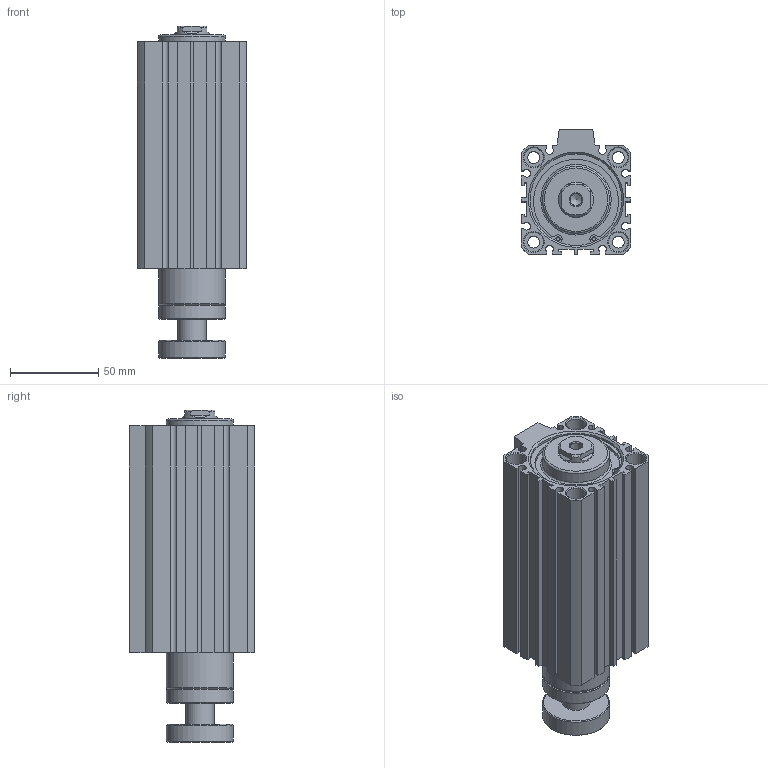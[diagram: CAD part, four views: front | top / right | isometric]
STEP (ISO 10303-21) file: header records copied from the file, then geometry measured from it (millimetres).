
FILE_DESCRIPTION((''),'2;1');
FILE_NAME('I:\3D電子目錄\氣缸\JDAR\JDAR\JDAR50\JDAR50x100.stp','2007-03-14T11:03:37',('662F206'),(''),'Autodesk Inventor 11','Autodesk Inventor 11','');
FILE_SCHEMA(('AUTOMOTIVE_DESIGN { 1 0 10303 214 1 1 1 1 }'));
Length unit declared in the file: millimetre
Products named in the file (3): JDAR50; R 形環 52
Assembly tree (3 placements, depth 2):
  JDAR50
    JDAR50
    R 形環 52  x2
Bounding box: 62 x 71 x 188.3 mm (x, y, z)
Volume: 495325.1 mm3; surface area: 84841.5 mm2
Topology: 3 solids, 3 shells, 193 faces, 472 edges, 309 vertices
Faces by surface type: plane 110, cylinder 54, cone 23, bspline 4, torus 2
Full cylindrical faces by diameter (mm): 2.3 x4, 2.7 x2, 6.8 x4, 11 x8, 16 x1, 20 x1, 38 x4, 52 x4, 55 x2
Entity records: 5195 total; most frequent: CARTESIAN_POINT 989, DIRECTION 870, ORIENTED_EDGE 764, EDGE_CURVE 382, AXIS2_PLACEMENT_3D 313, VERTEX_POINT 282, EDGE_LOOP 270, VECTOR 244
